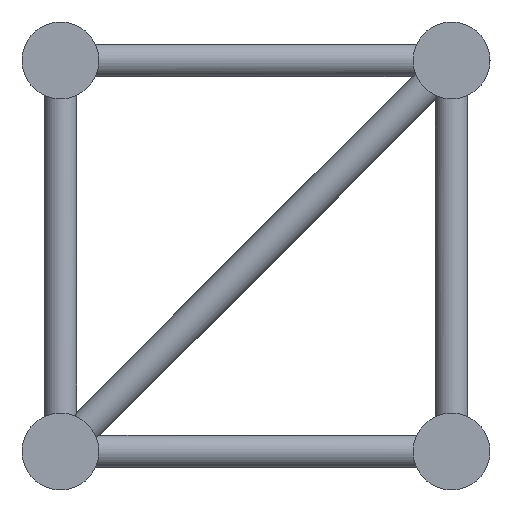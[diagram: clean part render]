
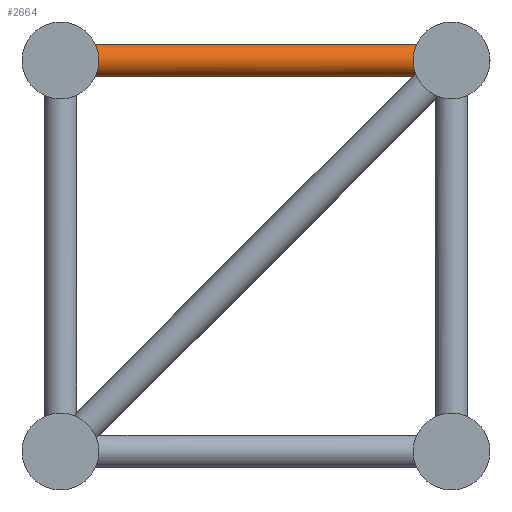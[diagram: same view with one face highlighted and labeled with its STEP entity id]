
A CAD part, left-side view. The second image highlights one B-rep face of the part: STEP entity #2664.
In plain terms, the highlighted cylindrical face has radius 12.5 mm (diameter 25 mm), a full revolution.
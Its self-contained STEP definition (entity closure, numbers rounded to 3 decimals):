
#41=ELLIPSE('',#2908,32.664,12.5);
#130=FACE_BOUND('',#696,.T.);
#445=FACE_OUTER_BOUND('',#695,.T.);
#695=EDGE_LOOP('',(#2088,#2089,#2090,#2091));
#696=EDGE_LOOP('',(#2092,#2093));
#917=CIRCLE('',#2854,12.5);
#942=CIRCLE('',#2918,12.5);
#943=CIRCLE('',#2919,12.5);
#954=CIRCLE('',#2940,12.5);
#955=CIRCLE('',#2942,12.5);
#1170=VERTEX_POINT('',#5167);
#1171=VERTEX_POINT('',#5168);
#1233=VERTEX_POINT('',#6212);
#1234=VERTEX_POINT('',#6233);
#1280=VERTEX_POINT('',#6952);
#1282=VERTEX_POINT('',#6955);
#1517=EDGE_CURVE('',#1233,#1234,#917,.T.);
#1565=EDGE_CURVE('',#1282,#1280,#41,.T.);
#1574=EDGE_CURVE('',#1282,#1171,#942,.T.);
#1575=EDGE_CURVE('',#1170,#1280,#943,.T.);
#1586=EDGE_CURVE('',#1234,#1233,#954,.T.);
#1587=EDGE_CURVE('',#1171,#1170,#955,.T.);
#2088=ORIENTED_EDGE('',*,*,#1565,.T.);
#2089=ORIENTED_EDGE('',*,*,#1575,.F.);
#2090=ORIENTED_EDGE('',*,*,#1587,.F.);
#2091=ORIENTED_EDGE('',*,*,#1574,.F.);
#2092=ORIENTED_EDGE('',*,*,#1586,.F.);
#2093=ORIENTED_EDGE('',*,*,#1517,.F.);
#2374=CYLINDRICAL_SURFACE('',#2941,12.5);
#2664=ADVANCED_FACE('',(#445,#130),#2374,.T.);
#2854=AXIS2_PLACEMENT_3D('',#6867,#3305,#3306);
#2908=AXIS2_PLACEMENT_3D('',#6956,#3419,#3420);
#2918=AXIS2_PLACEMENT_3D('',#6971,#3441,#3442);
#2919=AXIS2_PLACEMENT_3D('',#6972,#3443,#3444);
#2940=AXIS2_PLACEMENT_3D('',#6993,#3485,#3486);
#2941=AXIS2_PLACEMENT_3D('',#6994,#3487,#3488);
#2942=AXIS2_PLACEMENT_3D('',#6995,#3489,#3490);
#3305=DIRECTION('center_axis',(0.,1.,0.));
#3306=DIRECTION('ref_axis',(-0.621,0.,0.783));
#3419=DIRECTION('center_axis',(0.,0.383,0.924));
#3420=DIRECTION('ref_axis',(0.,0.924,-0.383));
#3441=DIRECTION('center_axis',(0.,-1.,0.));
#3442=DIRECTION('ref_axis',(-0.621,0.,0.783));
#3443=DIRECTION('center_axis',(0.,-1.,0.));
#3444=DIRECTION('ref_axis',(-0.621,0.,0.783));
#3485=DIRECTION('center_axis',(0.,1.,0.));
#3486=DIRECTION('ref_axis',(-0.621,0.,0.783));
#3487=DIRECTION('center_axis',(0.,-1.,0.));
#3488=DIRECTION('ref_axis',(-0.621,0.,0.783));
#3489=DIRECTION('center_axis',(0.,-1.,0.));
#3490=DIRECTION('ref_axis',(-0.621,0.,0.783));
#5167=CARTESIAN_POINT('',(80.,25.,0.));
#5168=CARTESIAN_POINT('',(105.,25.,0.));
#6212=CARTESIAN_POINT('',(80.,274.,0.));
#6233=CARTESIAN_POINT('',(105.,274.,0.));
#6867=CARTESIAN_POINT('Origin',(92.5,274.,0.));
#6952=CARTESIAN_POINT('',(85.499,25.,-10.355));
#6955=CARTESIAN_POINT('',(99.501,25.,-10.355));
#6956=CARTESIAN_POINT('Origin',(92.5,0.,
0.));
#6971=CARTESIAN_POINT('Origin',(92.5,25.,0.));
#6972=CARTESIAN_POINT('Origin',(92.5,25.,0.));
#6993=CARTESIAN_POINT('Origin',(92.5,274.,0.));
#6994=CARTESIAN_POINT('Origin',(92.5,274.,0.));
#6995=CARTESIAN_POINT('Origin',(92.5,25.,0.));
